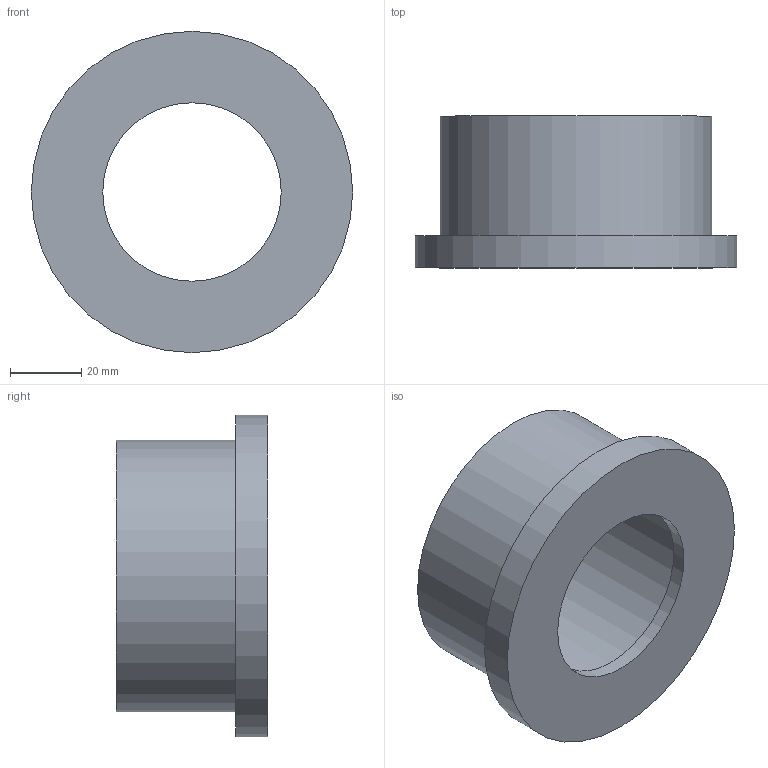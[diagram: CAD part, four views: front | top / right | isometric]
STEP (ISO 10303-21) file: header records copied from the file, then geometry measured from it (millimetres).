
FILE_DESCRIPTION(/* description */ ('PVC collare rigato incollaggio metrico'),/* implementation_level */ '2;1');
FILE_NAME(/* name */ 'C:\Users\POLYPIPE\Desktop\DATASET INVENTOR\LIBRERIA EFFAST\RACCORDI 3DxWEB\RDR\3D_RDRQRD\3D_RDRQRD0630.stp',/* time_stamp */ '2018-01-19T15:25:42+01:00',/* author */ ('POLYPIPE'),/* organization */ ('Polypipe Italia s.r.l.'),/* preprocessor_version */ 'ST-DEVELOPER v16.1',/* originating_system */ 'Autodesk Inventor 2016',/* authorisation */ '');
FILE_SCHEMA (('CONFIG_CONTROL_DESIGN'));
Length unit declared in the file: millimetre
Products named in the file (1): 3D_RDRQRD
Bounding box: 90 x 42.5 x 90 mm (x, y, z)
Volume: 81359 mm3; surface area: 27587.9 mm2
Topology: 1 solids, 1 shells, 8 faces, 12 edges, 8 vertices
Faces by surface type: plane 4, cylinder 4
Full cylindrical faces by diameter (mm): 50 x1, 63 x1, 76 x1, 90 x1
Entity records: 192 total; most frequent: DIRECTION 34, CARTESIAN_POINT 25, AXIS2_PLACEMENT_3D 17, EDGE_LOOP 16, ORIENTED_EDGE 16, FACE_BOUND 8, FACE_OUTER_BOUND 8, CIRCLE 8
